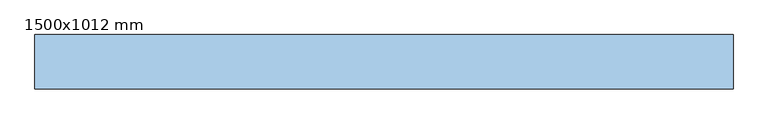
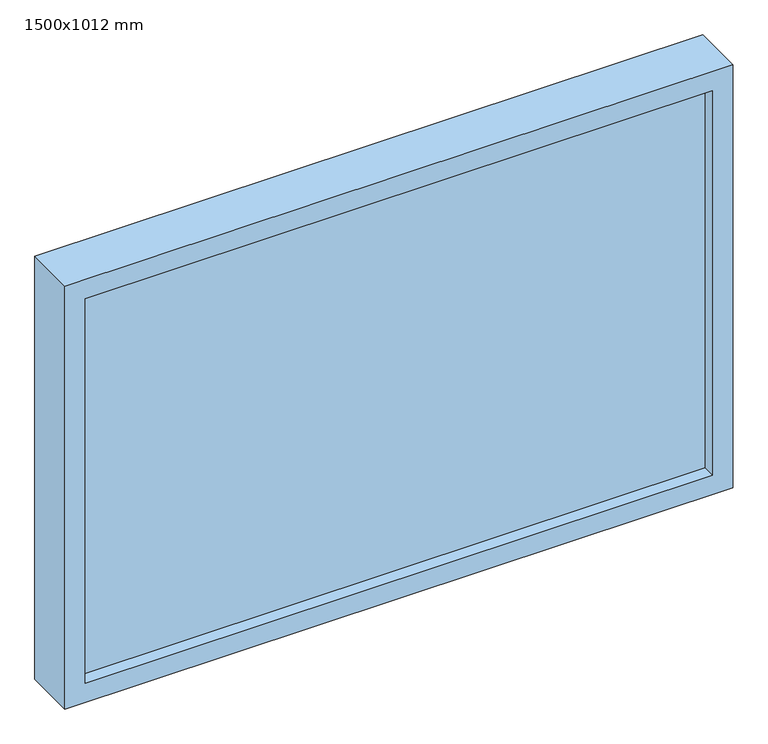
"""IFC4 building model written with IfcOpenShell, lengths in millimetres: window geometry, V_BS-Fals Beton-Tegl 468mm : 1500x1012 mm."""

from ifc_helpers import new_model, si_unit, frame, origin, place, context, project, spatial, polyline, outline, extrude, source, transform, mapped, element, save


def window_1500x1012_mm_b6c589c8(model_context):
    return source(origin(), model_context, "Body", "SweptSolid", [
        extrude(outline(polyline([(681.0, -146.0), (-705.0, -146.0), (-705.0, -124.0), (681.0, -124.0), (681.0, -146.0)])), frame((0.0, 0.0, 657.0), z_axis=(0.0, 0.0, 1.0), x_axis=(1.0, 0.0, 0.0)), (0.0, 0.0, 1.0), 898.0),
        extrude(outline(polyline([(1600.0, -750.0), (612.0, -750.0), (612.0, 726.0), (1600.0, 726.0), (1600.0, -750.0)]), holes=[polyline([(657.0, -705.0), (1555.0, -705.0), (1555.0, 681.0), (657.0, 681.0), (657.0, -705.0)])]), frame((0.0, -174.0, 0.0), z_axis=(0.0, 1.0, 0.0), x_axis=(0.0, 0.0, 1.0)), (0.0, 0.0, 1.0), 115.0),
    ])


if __name__ == "__main__":
    model = new_model("IFC4")
    model_context = context("Model", 3, world=origin())
    ifc_project = project(units=[si_unit("LENGTHUNIT", "METRE", prefix="MILLI")], contexts=[model_context])
    site = spatial("IfcSite", under=ifc_project)
    building = spatial("IfcBuilding", under=site)
    placement = place(None, origin())
    window_1500x1012_mm_shape = window_1500x1012_mm_b6c589c8(model_context)
    element("IfcWindow", 1, ObjectType="V_BS-Fals Beton-Tegl 468mm : 1500x1012 mm", at=placement, inside=building, context=model_context, shape_type="MappedRepresentation", body=[
        mapped(window_1500x1012_mm_shape, transform((0.0, 0.0, 0.0), x_axis=(1.0, 0.0, 0.0), y_axis=(0.0, 1.0, 0.0), z_axis=(0.0, 0.0, 1.0))),
    ])
    save(model, "model.ifc")
